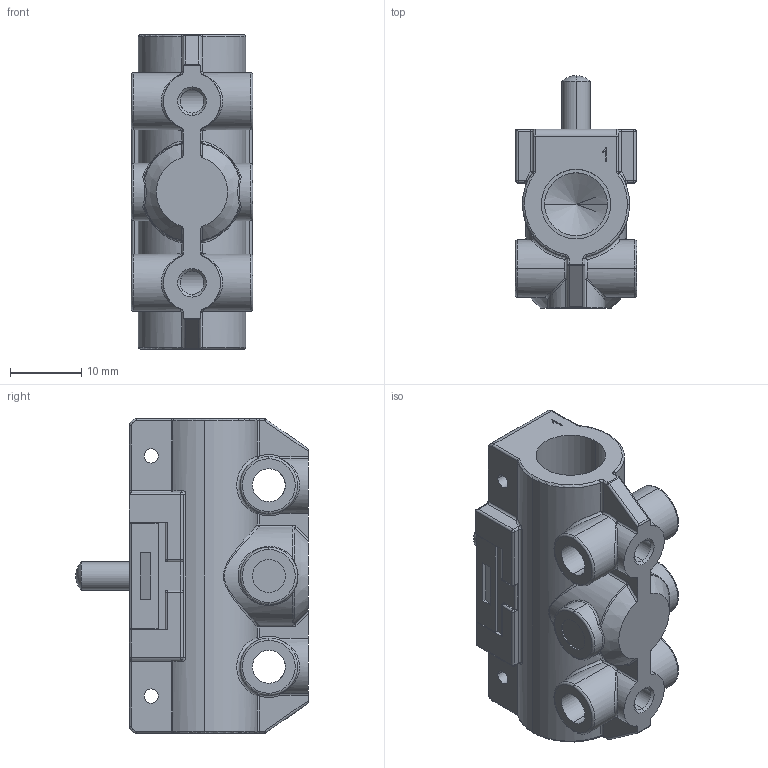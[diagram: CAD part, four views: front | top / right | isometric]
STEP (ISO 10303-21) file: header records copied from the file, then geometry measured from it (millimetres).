
FILE_DESCRIPTION (( 'STEP AP214' ), '1' );
FILE_NAME ('VM130-F01-00A.step.step', '2022-12-15T13:56:20', ( '' ), ( '' ), 'SwSTEP 2.0', 'SolidWorks 2022', '' );
FILE_SCHEMA (( 'AUTOMOTIVE_DESIGN' ));
Length unit declared in the file: millimetre
Products named in the file (2): VM130-F01-00A.step; VM130-F01-00A.step_VM1_Side_Ported_0-F01
Assembly tree (1 placements, depth 2):
  VM130-F01-00A.step
    VM130-F01-00A.step_VM1_Side_Ported_0-F01
Bounding box: 17 x 32.5 x 44 mm (x, y, z)
Volume: 11271.4 mm3; surface area: 6055 mm2
Topology: 1 solids, 1 shells, 370 faces, 896 edges, 517 vertices
Faces by surface type: cylinder 145, plane 80, torus 52, bspline 40, sphere 35, cone 18
Entity records: 13811 total; most frequent: CARTESIAN_POINT 5157, DIRECTION 1796, ORIENTED_EDGE 1742, EDGE_CURVE 871, AXIS2_PLACEMENT_3D 720, VERTEX_POINT 517, EDGE_LOOP 396, CIRCLE 386
